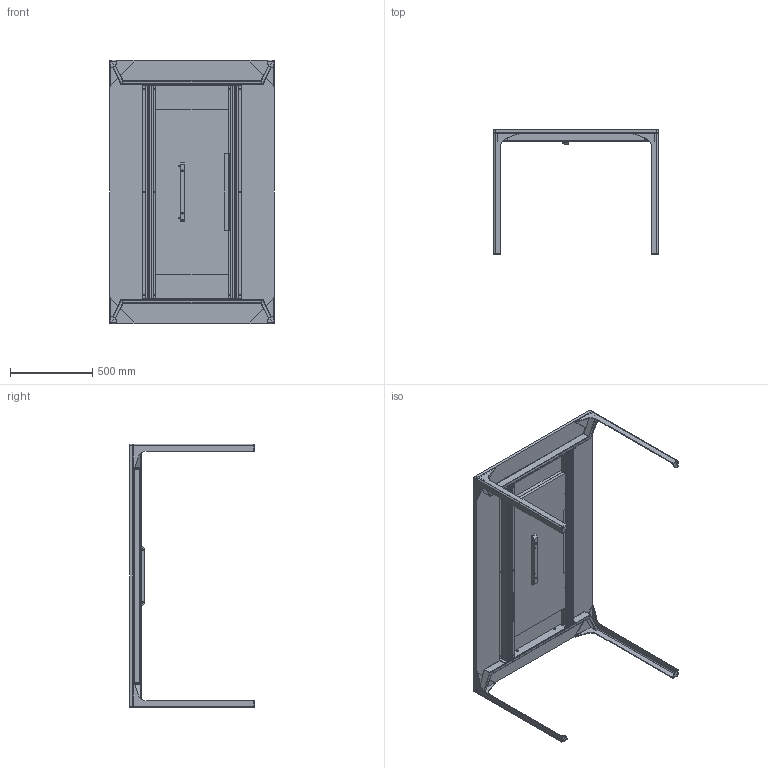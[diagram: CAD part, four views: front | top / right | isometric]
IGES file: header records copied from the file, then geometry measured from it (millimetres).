
Start section: SolidWorks IGES file using NURBS representation for surfaces
Global section: file name: R:\UFFICIO TECNICO\ARCHIVIO DISEGNI\3D\ARMANDO.IGS; native system: SolidWorks 2011; preprocessor: SolidWorks 2011; author: Alberto; date: 121203.165241; units: millimetre
Bounding box: 1000 x 756.5 x 1600 mm (x, y, z)
Surface area: 8580082.9 mm2 (no closed solid volume)
Topology: 0 solids, 0 shells, 1464 faces, 18732 edges, 18704 vertices
Faces by surface type: bspline 1464
